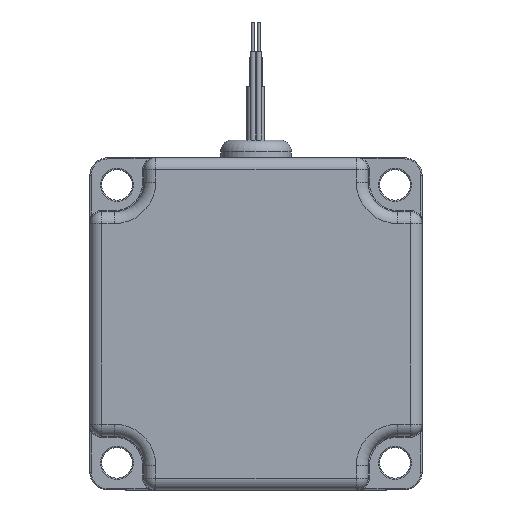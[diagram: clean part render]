
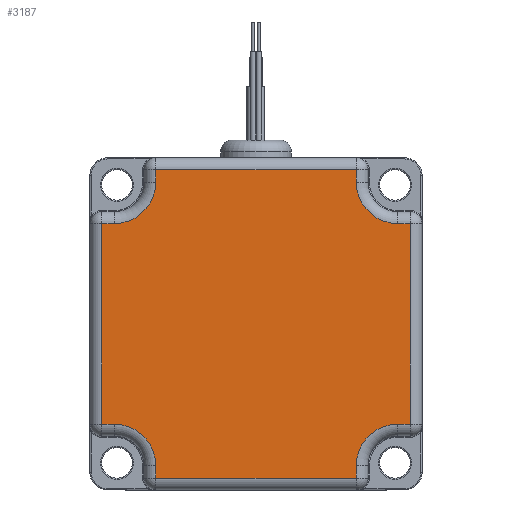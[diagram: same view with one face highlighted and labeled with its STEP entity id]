
A CAD part, front view. The second image highlights one B-rep face of the part: STEP entity #3187.
In plain terms, the highlighted planar face has unit normal (0, -1, 0).
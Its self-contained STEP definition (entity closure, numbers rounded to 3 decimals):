
#1199 = ORIENTED_EDGE ( 'NONE', *, *, #89482, .T. ) ;
#1822 = VECTOR ( 'NONE', #143827, 1000. ) ;
#3187 = ADVANCED_FACE ( 'NONE', ( #68944 ), #68041, .T. ) ;
#3793 = EDGE_CURVE ( 'NONE', #150326, #99810, #123373, .T. ) ;
#4739 = ORIENTED_EDGE ( 'NONE', *, *, #84455, .T. ) ;
#4983 = ORIENTED_EDGE ( 'NONE', *, *, #58646, .T. ) ;
#5118 = VERTEX_POINT ( 'NONE', #105892 ) ;
#6816 = VECTOR ( 'NONE', #97082, 1000. ) ;
#7388 = ORIENTED_EDGE ( 'NONE', *, *, #142693, .T. ) ;
#12507 = VECTOR ( 'NONE', #167858, 1000. ) ;
#13197 = VERTEX_POINT ( 'NONE', #37801 ) ;
#13397 = VERTEX_POINT ( 'NONE', #59731 ) ;
#13610 = EDGE_CURVE ( 'NONE', #146373, #13197, #74101, .T. ) ;
#16251 = ORIENTED_EDGE ( 'NONE', *, *, #94337, .T. ) ;
#19540 = DIRECTION ( 'NONE',  ( 0., 0., -1. ) ) ;
#21632 = VERTEX_POINT ( 'NONE', #148683 ) ;
#22831 = CARTESIAN_POINT ( 'NONE',  ( 17., -40., -24. ) ) ;
#23332 = LINE ( 'NONE', #134734, #52029 ) ;
#24771 = DIRECTION ( 'NONE',  ( 0., -1., 0. ) ) ;
#24994 = LINE ( 'NONE', #124387, #122476 ) ;
#27741 = ORIENTED_EDGE ( 'NONE', *, *, #145697, .T. ) ;
#30446 = ORIENTED_EDGE ( 'NONE', *, *, #87263, .T. ) ;
#30676 = LINE ( 'NONE', #172158, #70815 ) ;
#32866 = CARTESIAN_POINT ( 'NONE',  ( 26.15, -40., 17. ) ) ;
#35657 = DIRECTION ( 'NONE',  ( 0., 0., -1. ) ) ;
#35809 = VERTEX_POINT ( 'NONE', #74094 ) ;
#35926 = VERTEX_POINT ( 'NONE', #153640 ) ;
#37192 = DIRECTION ( 'NONE',  ( 0., 0., 1. ) ) ;
#37436 = CARTESIAN_POINT ( 'NONE',  ( 24., -40., -24. ) ) ;
#37801 = CARTESIAN_POINT ( 'NONE',  ( 26.15, -40., -17. ) ) ;
#38829 = LINE ( 'NONE', #105166, #47354 ) ;
#40874 = CARTESIAN_POINT ( 'NONE',  ( 17., -40., 0. ) ) ;
#42532 = CARTESIAN_POINT ( 'NONE',  ( -24., -40., 17. ) ) ;
#42777 = CARTESIAN_POINT ( 'NONE',  ( 28.15, -40., -17. ) ) ;
#47354 = VECTOR ( 'NONE', #137298, 1000. ) ;
#48255 = ORIENTED_EDGE ( 'NONE', *, *, #60652, .T. ) ;
#50895 = EDGE_CURVE ( 'NONE', #112390, #58710, #85967, .T. ) ;
#52029 = VECTOR ( 'NONE', #37192, 1000. ) ;
#52076 = DIRECTION ( 'NONE',  ( 0., 1., 0. ) ) ;
#53596 = ORIENTED_EDGE ( 'NONE', *, *, #13610, .T. ) ;
#54706 = LINE ( 'NONE', #40874, #6816 ) ;
#57468 = DIRECTION ( 'NONE',  ( 1., 0., 0. ) ) ;
#58514 = ORIENTED_EDGE ( 'NONE', *, *, #145741, .T. ) ;
#58646 = EDGE_CURVE ( 'NONE', #112057, #146373, #180358, .T. ) ;
#58710 = VERTEX_POINT ( 'NONE', #110124 ) ;
#59731 = CARTESIAN_POINT ( 'NONE',  ( -26.15, -40., 17. ) ) ;
#60652 = EDGE_CURVE ( 'NONE', #21632, #35809, #24994, .T. ) ;
#61737 = CARTESIAN_POINT ( 'NONE',  ( 17., -40., -26.15 ) ) ;
#66294 = VERTEX_POINT ( 'NONE', #32866 ) ;
#66831 = CARTESIAN_POINT ( 'NONE',  ( -17., -40., -24. ) ) ;
#68041 = PLANE ( 'NONE',  #108554 ) ;
#68944 = FACE_OUTER_BOUND ( 'NONE', #154603, .T. ) ;
#69168 = EDGE_CURVE ( 'NONE', #35926, #112390, #145030, .T. ) ;
#70815 = VECTOR ( 'NONE', #86865, 1000. ) ;
#74004 = CARTESIAN_POINT ( 'NONE',  ( -17., -40., -28.15 ) ) ;
#74094 = CARTESIAN_POINT ( 'NONE',  ( -17., -40., 26.15 ) ) ;
#74101 = LINE ( 'NONE', #42777, #90695 ) ;
#76652 = DIRECTION ( 'NONE',  ( 1., 0., 0. ) ) ;
#82950 = DIRECTION ( 'NONE',  ( -1., 0., 0. ) ) ;
#84455 = EDGE_CURVE ( 'NONE', #5118, #35926, #117887, .T. ) ;
#85967 = LINE ( 'NONE', #74004, #1822 ) ;
#86169 = DIRECTION ( 'NONE',  ( 0., 0., -1. ) ) ;
#86865 = DIRECTION ( 'NONE',  ( 0., 0., 1. ) ) ;
#86885 = EDGE_CURVE ( 'NONE', #119695, #111636, #136123, .T. ) ;
#87263 = EDGE_CURVE ( 'NONE', #66294, #150326, #109245, .T. ) ;
#89372 = EDGE_CURVE ( 'NONE', #111636, #13397, #173028, .T. ) ;
#89482 = EDGE_CURVE ( 'NONE', #58710, #162823, #146489, .T. ) ;
#89585 = DIRECTION ( 'NONE',  ( 0., 1., 0. ) ) ;
#90190 = CARTESIAN_POINT ( 'NONE',  ( -17., -40., 0. ) ) ;
#90695 = VECTOR ( 'NONE', #57468, 1000. ) ;
#91078 = DIRECTION ( 'NONE',  ( 0., 0., -1. ) ) ;
#91103 = AXIS2_PLACEMENT_3D ( 'NONE', #140410, #144043, #86169 ) ;
#92861 = VECTOR ( 'NONE', #76652, 1000. ) ;
#94337 = EDGE_CURVE ( 'NONE', #99810, #21632, #23332, .T. ) ;
#95418 = CARTESIAN_POINT ( 'NONE',  ( 0., -40., 17. ) ) ;
#97082 = DIRECTION ( 'NONE',  ( 0., 0., 1. ) ) ;
#99810 = VERTEX_POINT ( 'NONE', #108816 ) ;
#101552 = ORIENTED_EDGE ( 'NONE', *, *, #50895, .T. ) ;
#105166 = CARTESIAN_POINT ( 'NONE',  ( -26.15, -40., -19. ) ) ;
#105892 = CARTESIAN_POINT ( 'NONE',  ( -26.15, -40., -17. ) ) ;
#106822 = AXIS2_PLACEMENT_3D ( 'NONE', #134963, #175245, #164206 ) ;
#108554 = AXIS2_PLACEMENT_3D ( 'NONE', #180019, #24771, #166260 ) ;
#108816 = CARTESIAN_POINT ( 'NONE',  ( 17., -40., 24. ) ) ;
#109245 = LINE ( 'NONE', #95418, #12507 ) ;
#110124 = CARTESIAN_POINT ( 'NONE',  ( -17., -40., -26.15 ) ) ;
#111636 = VERTEX_POINT ( 'NONE', #42532 ) ;
#112057 = VERTEX_POINT ( 'NONE', #22831 ) ;
#112390 = VERTEX_POINT ( 'NONE', #66831 ) ;
#114421 = CARTESIAN_POINT ( 'NONE',  ( -28.15, -40., 17. ) ) ;
#117131 = CARTESIAN_POINT ( 'NONE',  ( -24., -40., 24. ) ) ;
#117887 = LINE ( 'NONE', #144548, #126341 ) ;
#119695 = VERTEX_POINT ( 'NONE', #130507 ) ;
#119915 = ORIENTED_EDGE ( 'NONE', *, *, #3793, .T. ) ;
#121681 = ORIENTED_EDGE ( 'NONE', *, *, #89372, .T. ) ;
#122476 = VECTOR ( 'NONE', #82950, 1000. ) ;
#123373 = CIRCLE ( 'NONE', #91103, 7. ) ;
#124387 = CARTESIAN_POINT ( 'NONE',  ( 0., -40., 26.15 ) ) ;
#126341 = VECTOR ( 'NONE', #159202, 1000. ) ;
#126690 = ORIENTED_EDGE ( 'NONE', *, *, #69168, .T. ) ;
#130507 = CARTESIAN_POINT ( 'NONE',  ( -17., -40., 24. ) ) ;
#132487 = LINE ( 'NONE', #90190, #155434 ) ;
#134008 = VECTOR ( 'NONE', #170312, 1000. ) ;
#134734 = CARTESIAN_POINT ( 'NONE',  ( 17., -40., 28.15 ) ) ;
#134963 = CARTESIAN_POINT ( 'NONE',  ( -24., -40., -24. ) ) ;
#136123 = CIRCLE ( 'NONE', #177011, 7. ) ;
#137298 = DIRECTION ( 'NONE',  ( 0., 0., -1. ) ) ;
#137756 = CARTESIAN_POINT ( 'NONE',  ( 24., -40., -17. ) ) ;
#140410 = CARTESIAN_POINT ( 'NONE',  ( 24., -40., 24. ) ) ;
#142356 = AXIS2_PLACEMENT_3D ( 'NONE', #37436, #52076, #35657 ) ;
#142693 = EDGE_CURVE ( 'NONE', #162823, #112057, #54706, .T. ) ;
#143827 = DIRECTION ( 'NONE',  ( 0., 0., -1. ) ) ;
#144043 = DIRECTION ( 'NONE',  ( 0., 1., 0. ) ) ;
#144548 = CARTESIAN_POINT ( 'NONE',  ( 0., -40., -17. ) ) ;
#145030 = CIRCLE ( 'NONE', #106822, 7. ) ;
#145697 = EDGE_CURVE ( 'NONE', #13197, #66294, #30676, .T. ) ;
#145741 = EDGE_CURVE ( 'NONE', #13397, #5118, #38829, .T. ) ;
#146373 = VERTEX_POINT ( 'NONE', #137756 ) ;
#146489 = LINE ( 'NONE', #161996, #92861 ) ;
#148683 = CARTESIAN_POINT ( 'NONE',  ( 17., -40., 26.15 ) ) ;
#150326 = VERTEX_POINT ( 'NONE', #152147 ) ;
#152147 = CARTESIAN_POINT ( 'NONE',  ( 24., -40., 17. ) ) ;
#153640 = CARTESIAN_POINT ( 'NONE',  ( -24., -40., -17. ) ) ;
#154603 = EDGE_LOOP ( 'NONE', ( #101552, #1199, #7388, #4983, #53596, #27741, #30446, #119915, #16251, #48255, #178701, #162539, #121681, #58514, #4739, #126690 ) ) ;
#155434 = VECTOR ( 'NONE', #91078, 1000. ) ;
#159202 = DIRECTION ( 'NONE',  ( 1., 0., 0. ) ) ;
#161996 = CARTESIAN_POINT ( 'NONE',  ( 19., -40., -26.15 ) ) ;
#162539 = ORIENTED_EDGE ( 'NONE', *, *, #86885, .T. ) ;
#162823 = VERTEX_POINT ( 'NONE', #61737 ) ;
#164206 = DIRECTION ( 'NONE',  ( 0., 0., -1. ) ) ;
#166260 = DIRECTION ( 'NONE',  ( 0., 0., -1. ) ) ;
#167858 = DIRECTION ( 'NONE',  ( -1., 0., 0. ) ) ;
#170312 = DIRECTION ( 'NONE',  ( -1., 0., 0. ) ) ;
#172158 = CARTESIAN_POINT ( 'NONE',  ( 26.15, -40., 0. ) ) ;
#172849 = EDGE_CURVE ( 'NONE', #35809, #119695, #132487, .T. ) ;
#173028 = LINE ( 'NONE', #114421, #134008 ) ;
#175245 = DIRECTION ( 'NONE',  ( 0., 1., 0. ) ) ;
#177011 = AXIS2_PLACEMENT_3D ( 'NONE', #117131, #89585, #19540 ) ;
#178701 = ORIENTED_EDGE ( 'NONE', *, *, #172849, .T. ) ;
#180019 = CARTESIAN_POINT ( 'NONE',  ( 0., -40., 0. ) ) ;
#180358 = CIRCLE ( 'NONE', #142356, 7. ) ;
